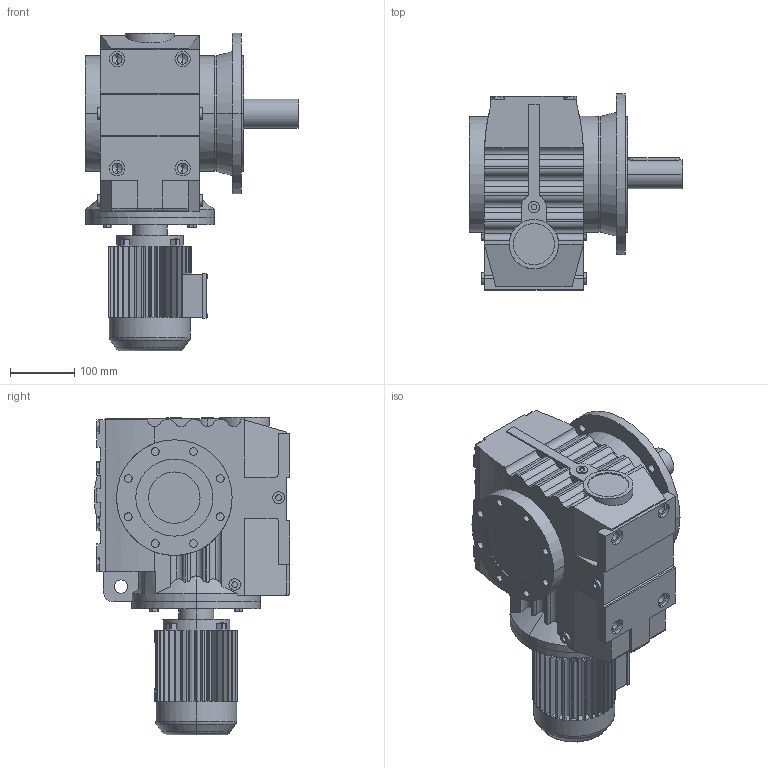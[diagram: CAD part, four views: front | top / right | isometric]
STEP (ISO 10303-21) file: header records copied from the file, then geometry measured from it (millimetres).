
FILE_DESCRIPTION(('Open CASCADE Model'),'2;1');
FILE_NAME('Open CASCADE Shape Model','2021-07-20T10:59:48',('Author'),( 'Open CASCADE'),'Open CASCADE STEP processor 6.3','Open CASCADE 6.3' ,'Unknown');
FILE_SCHEMA(('AUTOMOTIVE_DESIGN_CC2 { 1 2 10303 214 -1 1 5 4 }'));
Length unit declared in the file: millimetre
Products named in the file (5): 1_SF77-Y63S-A; SA47‵97_77.step; 萇儂_200_Y63S.step; す瑩妗陑粣S_77_SF.step; 楊擘S_77_250_SF.step
Assembly tree (4 placements, depth 2):
  1_SF77-Y63S-A
    SA47‵97_77.step
    萇儂_200_Y63S.step
    す瑩妗陑粣S_77_SF.step
    楊擘S_77_250_SF.step
Bounding box: 333 x 305 x 494 mm (x, y, z)
Volume: 16544615.2 mm3; surface area: 918611.5 mm2
Topology: 4 solids, 4 shells, 859 faces, 2226 edges, 1439 vertices
Faces by surface type: plane 532, cylinder 298, cone 25, torus 4
Entity records: 63939 total; most frequent: CARTESIAN_POINT 22214, DIRECTION 7060, ORIENTED_EDGE 4432, PCURVE 4432, DEFINITIONAL_REPRESENTATION 4432, LINE 3552, VECTOR 3552, EDGE_CURVE 2216
